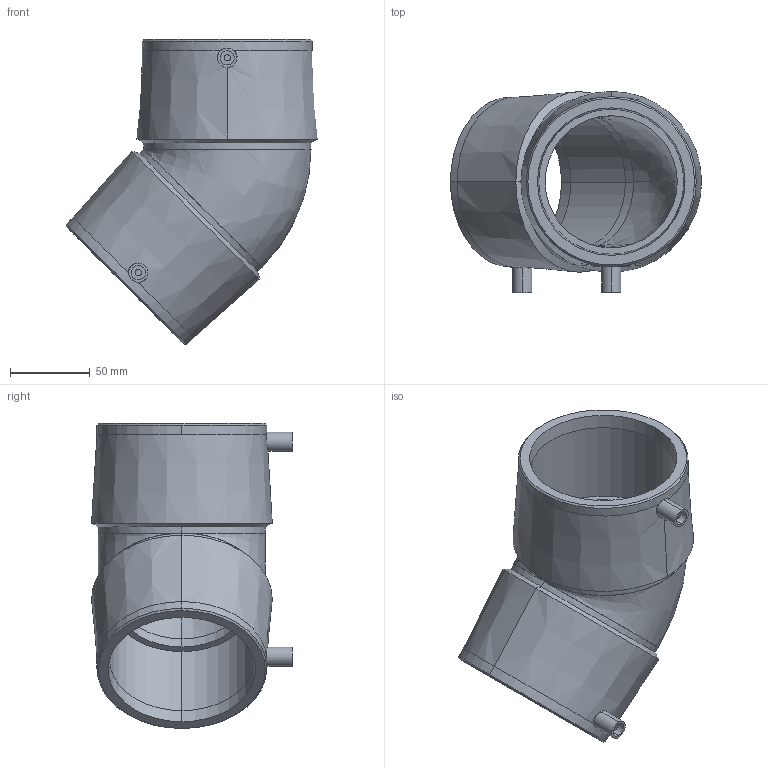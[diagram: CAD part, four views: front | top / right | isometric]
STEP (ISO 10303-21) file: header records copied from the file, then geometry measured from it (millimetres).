
FILE_DESCRIPTION (( 'STEP AP203' ), '1' );
FILE_NAME ('KP_24-90.step', '2011-08-08T11:39:16', ( '' ), ( '' ), 'SwSTEP 2.0', 'SolidWorks 2011', '' );
FILE_SCHEMA (( 'CONFIG_CONTROL_DESIGN' ));
Length unit declared in the file: millimetre
Products named in the file (1): KP_24-90
Bounding box: 157.75 x 126.14 x 191.51 mm (x, y, z)
Volume: 547147 mm3; surface area: 121056.9 mm2
Topology: 1 solids, 1 shells, 66 faces, 148 edges, 90 vertices
Faces by surface type: cylinder 28, cone 20, plane 14, bspline 4
Entity records: 2346 total; most frequent: CARTESIAN_POINT 780, DIRECTION 336, ORIENTED_EDGE 296, EDGE_CURVE 148, AXIS2_PLACEMENT_3D 145, VERTEX_POINT 90, CIRCLE 82, EDGE_LOOP 74
